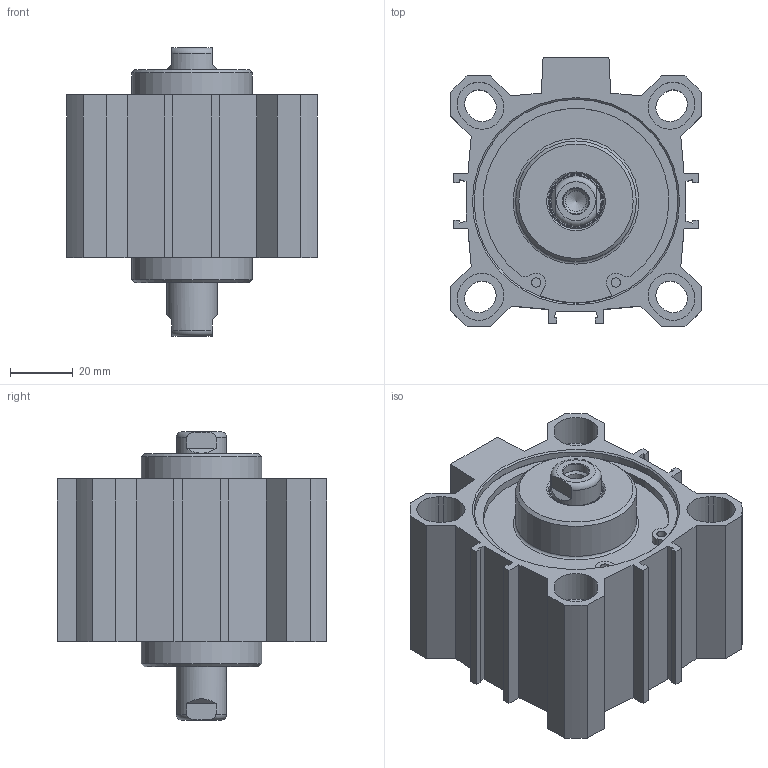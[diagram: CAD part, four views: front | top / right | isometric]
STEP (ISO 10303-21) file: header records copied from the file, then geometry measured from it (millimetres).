
FILE_DESCRIPTION(/* description */ ('Unknown'),/* implementation_level */ '2;1');
FILE_NAME(/* name */ 'FBN 63_10',/* time_stamp */ '2026-04-30T11:25:50+02:00',/* author */ ('Unknown'),/* organization */ ('Unknown'),/* preprocessor_version */ 'ST-DEVELOPER v18.102',/* originating_system */ 'Solid Edge',/* authorisation */ 'Unknown');
FILE_SCHEMA (('AUTOMOTIVE_DESIGN {1 0 10303 214 3 1 1}'));
Length unit declared in the file: millimetre
Products named in the file (4): FBN 63_10; Kit; Profilrohr; Kolbenstange
Assembly tree (5 placements, depth 2):
  FBN 63_10
    Kit  x2
    Profilrohr
    Kolbenstange  x2
Bounding box: 80 x 86 x 92 mm (x, y, z)
Volume: 233017.5 mm3; surface area: 89451.3 mm2
Topology: 5 solids, 7 shells, 283 faces, 677 edges, 432 vertices
Faces by surface type: plane 142, cylinder 83, cone 44, torus 14
Full cylindrical faces by diameter (mm): 3 x4, 3.2 x2, 6.647 x4, 8.25 x2, 8.566 x4, 16 x4, 16.54 x2, 17.7 x2, 18 x2, 20.32 x2, 20.5 x2, 38.5 x2, 63 x3, 64.7 x4, 65.1 x2, 68.2 x2
Entity records: 7881 total; most frequent: CARTESIAN_POINT 1197, DIRECTION 1068, ORIENTED_EDGE 940, EDGE_CURVE 470, AXIS2_PLACEMENT_3D 382, VERTEX_POINT 339, FACE_BOUND 319, EDGE_LOOP 318
